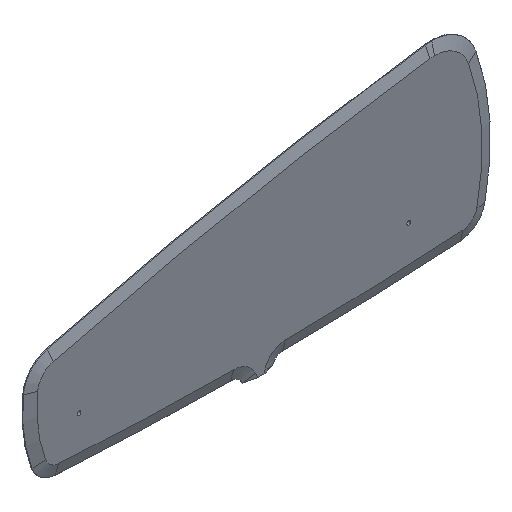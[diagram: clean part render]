
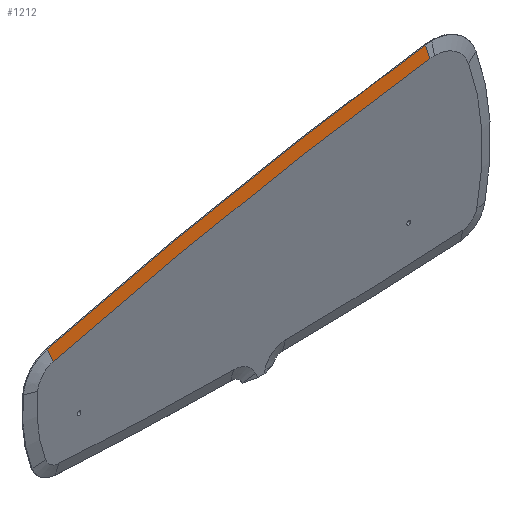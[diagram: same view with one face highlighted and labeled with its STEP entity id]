
A CAD part, isometric view. The second image highlights one B-rep face of the part: STEP entity #1212.
In plain terms, the highlighted free-form (B-spline) face has degree [1, 3] with [2, 14] control points.
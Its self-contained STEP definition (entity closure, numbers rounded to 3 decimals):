
#13 = CARTESIAN_POINT ( 'NONE',  ( -219.728, 0., 242.356 ) ) ;
#77 = CARTESIAN_POINT ( 'NONE',  ( 448.207, 0., 357.907 ) ) ;
#94 = CARTESIAN_POINT ( 'NONE',  ( 359.923, 8., 376.154 ) ) ;
#111 = EDGE_CURVE ( 'NONE', #1053, #982, #1259, .T. ) ;
#112 = CARTESIAN_POINT ( 'NONE',  ( 24.43, 8., 320.383 ) ) ;
#141 = CARTESIAN_POINT ( 'NONE',  ( 444.225, 8., 387.497 ) ) ;
#217 = CARTESIAN_POINT ( 'NONE',  ( -142.494, 8., 287.617 ) ) ;
#219 = CARTESIAN_POINT ( 'NONE',  ( 155.015, 0., 313.322 ) ) ;
#230 = CARTESIAN_POINT ( 'NONE',  ( 448.207, 0., 357.907 ) ) ;
#245 = CARTESIAN_POINT ( 'NONE',  ( -391.643, 8., 232.525 ) ) ;
#252 = CARTESIAN_POINT ( 'NONE',  ( 444.225, 8., 387.497 ) ) ;
#288 = CARTESIAN_POINT ( 'NONE',  ( -136.45, 0., 258.378 ) ) ;
#310 = B_SPLINE_CURVE_WITH_KNOTS ( 'NONE', 3,
 ( #582, #934, #849, #391, #252 ),
 .UNSPECIFIED., .F., .F.,
 ( 4, 1, 4 ),
 ( 0., 0.515, 1. ),
 .UNSPECIFIED. ) ;
#335 = CARTESIAN_POINT ( 'NONE',  ( -549.113, 0., 162.131 ) ) ;
#391 = CARTESIAN_POINT ( 'NONE',  ( 280.662, 8., 365.49 ) ) ;
#399 = VERTEX_POINT ( 'NONE', #1078 ) ;
#426 = CARTESIAN_POINT ( 'NONE',  ( -32.543, 0., 279.099 ) ) ;
#438 = ORIENTED_EDGE ( 'NONE', *, *, #111, .T. ) ;
#508 = CARTESIAN_POINT ( 'NONE',  ( 92.41, 0., 302.492 ) ) ;
#524 = CARTESIAN_POINT ( 'NONE',  ( -551.613, 2.667, 171.764 ) ) ;
#582 = CARTESIAN_POINT ( 'NONE',  ( -556.613, 8., 191.03 ) ) ;
#590 = CARTESIAN_POINT ( 'NONE',  ( 238.517, 0., 327.768 ) ) ;
#612 = CARTESIAN_POINT ( 'NONE',  ( 364.209, 0., 346.605 ) ) ;
#624 = CARTESIAN_POINT ( 'NONE',  ( 149.999, 8., 342.755 ) ) ;
#628 = EDGE_CURVE ( 'NONE', #1053, #399, #1282, .T. ) ;
#660 = CARTESIAN_POINT ( 'NONE',  ( -384.985, 0., 204.727 ) ) ;
#719 = CARTESIAN_POINT ( 'NONE',  ( 280.402, 0., 334.045 ) ) ;
#761 = CARTESIAN_POINT ( 'NONE',  ( -384.723, 0., 203.48 ) ) ;
#791 = CARTESIAN_POINT ( 'NONE',  ( -467.068, 0., 183.424 ) ) ;
#814 = CARTESIAN_POINT ( 'NONE',  ( -100.827, 8., 296.121 ) ) ;
#847 = CARTESIAN_POINT ( 'NONE',  ( -556.613, 8., 191.03 ) ) ;
#849 = CARTESIAN_POINT ( 'NONE',  ( -54.959, 8., 310.321 ) ) ;
#867 = CARTESIAN_POINT ( 'NONE',  ( 113.271, 0., 306.1 ) ) ;
#887 = CARTESIAN_POINT ( 'NONE',  ( -549.113, 0., 162.131 ) ) ;
#888 = ORIENTED_EDGE ( 'NONE', *, *, #628, .F. ) ;
#901 = CARTESIAN_POINT ( 'NONE',  ( -11.753, 0., 283.18 ) ) ;
#929 = CARTESIAN_POINT ( 'NONE',  ( -94.929, 0., 266.853 ) ) ;
#934 = CARTESIAN_POINT ( 'NONE',  ( -386.686, 8., 235.131 ) ) ;
#982 = VERTEX_POINT ( 'NONE', #1446 ) ;
#986 = CARTESIAN_POINT ( 'NONE',  ( 448.207, 0., 357.907 ) ) ;
#1025 = VERTEX_POINT ( 'NONE', #847 ) ;
#1039 = CARTESIAN_POINT ( 'NONE',  ( -17.358, 8., 312.506 ) ) ;
#1046 = EDGE_CURVE ( 'NONE', #1025, #982, #310, .T. ) ;
#1050 = CARTESIAN_POINT ( 'NONE',  ( 29.907, 0., 290.952 ) ) ;
#1053 = VERTEX_POINT ( 'NONE', #77 ) ;
#1061 = CARTESIAN_POINT ( 'NONE',  ( -267.234, 8., 260.853 ) ) ;
#1077 = ORIENTED_EDGE ( 'NONE', *, *, #1238, .F. ) ;
#1078 = CARTESIAN_POINT ( 'NONE',  ( -549.113, 0., 162.131 ) ) ;
#1090 = CARTESIAN_POINT ( 'NONE',  ( -549.113, 0., 162.131 ) ) ;
#1144 = CARTESIAN_POINT ( 'NONE',  ( -556.613, 8., 191.03 ) ) ;
#1145 = CARTESIAN_POINT ( 'NONE',  ( -554.113, 5.333, 181.397 ) ) ;
#1192 = CARTESIAN_POINT ( 'NONE',  ( 448.207, 0., 357.907 ) ) ;
#1212 = ADVANCED_FACE ( 'NONE', ( #1536 ), #1413, .T. ) ;
#1233 = CARTESIAN_POINT ( 'NONE',  ( -556.613, 8., 191.03 ) ) ;
#1238 = EDGE_CURVE ( 'NONE', #399, #1025, #1424, .T. ) ;
#1254 = ORIENTED_EDGE ( 'NONE', *, *, #1046, .F. ) ;
#1259 = B_SPLINE_CURVE_WITH_KNOTS ( 'NONE', 1,
 ( #986, #1490 ),
 .UNSPECIFIED., .F., .F.,
 ( 2, 2 ),
 ( 0., 1. ),
 .UNSPECIFIED. ) ;
#1280 = CARTESIAN_POINT ( 'NONE',  ( -219.362, 0., 240.806 ) ) ;
#1282 = B_SPLINE_CURVE_WITH_KNOTS ( 'NONE', 3,
 ( #230, #612, #590, #508, #1050, #1471, #426, #13, #660, #887 ),
 .UNSPECIFIED., .F., .F.,
 ( 4, 1, 1, 2, 2, 4 ),
 ( 0., 0.25, 0.375, 0.438, 0.5, 1. ),
 .UNSPECIFIED. ) ;
#1283 = CARTESIAN_POINT ( 'NONE',  ( 364.201, 0., 346.604 ) ) ;
#1389 = CARTESIAN_POINT ( 'NONE',  ( -225.698, 8., 269.983 ) ) ;
#1413 = B_SPLINE_SURFACE_WITH_KNOTS ( 'NONE', 1, 3, ( 
 ( #1144, #1423, #245, #1061, #1389, #217, #814, #1039, #112, #1568, #624, #1482, #94, #141 ),
 ( #1090, #791, #761, #1489, #1280, #288, #929, #901, #1512, #867, #219, #719, #1283, #1192 ) ),
 .UNSPECIFIED., .F., .F., .F.,
 ( 2, 2 ),
 ( 4, 2, 2, 2, 2, 2, 4 ),
 ( 0., 1. ),
 ( 0., 0.254, 0.381, 0.509, 0.636, 0.763, 1.017 ),
 .UNSPECIFIED. ) ;
#1423 = CARTESIAN_POINT ( 'NONE',  ( -474.279, 8., 212.398 ) ) ;
#1424 = B_SPLINE_CURVE_WITH_KNOTS ( 'NONE', 3,
 ( #335, #524, #1145, #1233 ),
 .UNSPECIFIED., .F., .F.,
 ( 4, 4 ),
 ( 0., 1. ),
 .UNSPECIFIED. ) ;
#1446 = CARTESIAN_POINT ( 'NONE',  ( 444.225, 8., 387.497 ) ) ;
#1471 = CARTESIAN_POINT ( 'NONE',  ( -11.736, 0., 283.102 ) ) ;
#1475 = EDGE_LOOP ( 'NONE', ( #438, #1254, #1077, #888 ) ) ;
#1482 = CARTESIAN_POINT ( 'NONE',  ( 275.829, 8., 363.551 ) ) ;
#1489 = CARTESIAN_POINT ( 'NONE',  ( -260.752, 0., 231.708 ) ) ;
#1490 = CARTESIAN_POINT ( 'NONE',  ( 444.225, 8., 387.497 ) ) ;
#1512 = CARTESIAN_POINT ( 'NONE',  ( 29.887, 0., 291.029 ) ) ;
#1536 = FACE_OUTER_BOUND ( 'NONE', #1475, .T. ) ;
#1568 = CARTESIAN_POINT ( 'NONE',  ( 108.108, 8., 335.507 ) ) ;
